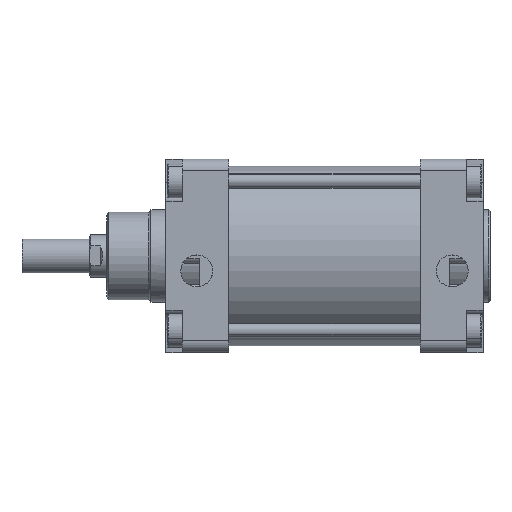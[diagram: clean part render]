
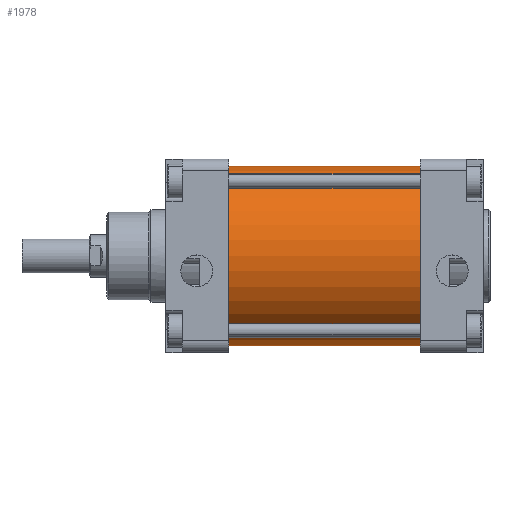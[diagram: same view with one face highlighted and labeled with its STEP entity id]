
A CAD part, top view. The second image highlights one B-rep face of the part: STEP entity #1978.
In plain terms, the highlighted cylindrical face has radius 53.5 mm (diameter 107 mm), a partial arc.
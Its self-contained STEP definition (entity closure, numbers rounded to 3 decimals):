
#1682=CARTESIAN_POINT('Axis2P3D Location',(0.,0.,0.)) ;
#1686=CARTESIAN_POINT('Vertex',(0.,53.5,0.)) ;
#1688=CARTESIAN_POINT('Vertex',(0.,-53.5,0.)) ;
#1948=CARTESIAN_POINT('Axis2P3D Location',(57.,0.,0.)) ;
#1953=CARTESIAN_POINT('Line Origine',(57.,53.5,0.)) ;
#1957=CARTESIAN_POINT('Vertex',(114.,53.5,0.)) ;
#1960=CARTESIAN_POINT('Line Origine',(57.,-53.5,0.)) ;
#1964=CARTESIAN_POINT('Vertex',(114.,-53.5,0.)) ;
#1967=CARTESIAN_POINT('Axis2P3D Location',(114.,0.,0.)) ;
#1683=DIRECTION('Axis2P3D Direction',(1.,0.,0.)) ;
#1949=DIRECTION('Axis2P3D Direction',(1.,0.,0.)) ;
#1950=DIRECTION('Axis2P3D XDirection',(0.,1.,0.)) ;
#1954=DIRECTION('Vector Direction',(1.,0.,0.)) ;
#1961=DIRECTION('Vector Direction',(1.,0.,0.)) ;
#1968=DIRECTION('Axis2P3D Direction',(1.,0.,0.)) ;
#1684=AXIS2_PLACEMENT_3D('Circle Axis2P3D',#1682,#1683,$) ;
#1951=AXIS2_PLACEMENT_3D('Cylinder Axis2P3D',#1948,#1949,#1950) ;
#1969=AXIS2_PLACEMENT_3D('Circle Axis2P3D',#1967,#1968,$) ;
#1973=ORIENTED_EDGE('',*,*,#1959,.F.) ;
#1974=ORIENTED_EDGE('',*,*,#1690,.T.) ;
#1975=ORIENTED_EDGE('',*,*,#1966,.T.) ;
#1976=ORIENTED_EDGE('',*,*,#1971,.F.) ;
#1955=VECTOR('Line Direction',#1954,1.) ;
#1962=VECTOR('Line Direction',#1961,1.) ;
#1978=ADVANCED_FACE('PartBody',(#1977),#1952,.T.) ;
#1685=CIRCLE('generated circle',#1684,53.5) ;
#1970=CIRCLE('generated circle',#1969,53.5) ;
#1952=CYLINDRICAL_SURFACE('generated cylinder',#1951,53.5) ;
#1690=EDGE_CURVE('',#1687,#1689,#1685,.T.) ;
#1959=EDGE_CURVE('',#1687,#1958,#1956,.T.) ;
#1966=EDGE_CURVE('',#1689,#1965,#1963,.T.) ;
#1971=EDGE_CURVE('',#1958,#1965,#1970,.T.) ;
#1972=EDGE_LOOP('',(#1973,#1974,#1975,#1976)) ;
#1977=FACE_OUTER_BOUND('',#1972,.T.) ;
#1956=LINE('Line',#1953,#1955) ;
#1963=LINE('Line',#1960,#1962) ;
#1687=VERTEX_POINT('',#1686) ;
#1689=VERTEX_POINT('',#1688) ;
#1958=VERTEX_POINT('',#1957) ;
#1965=VERTEX_POINT('',#1964) ;
